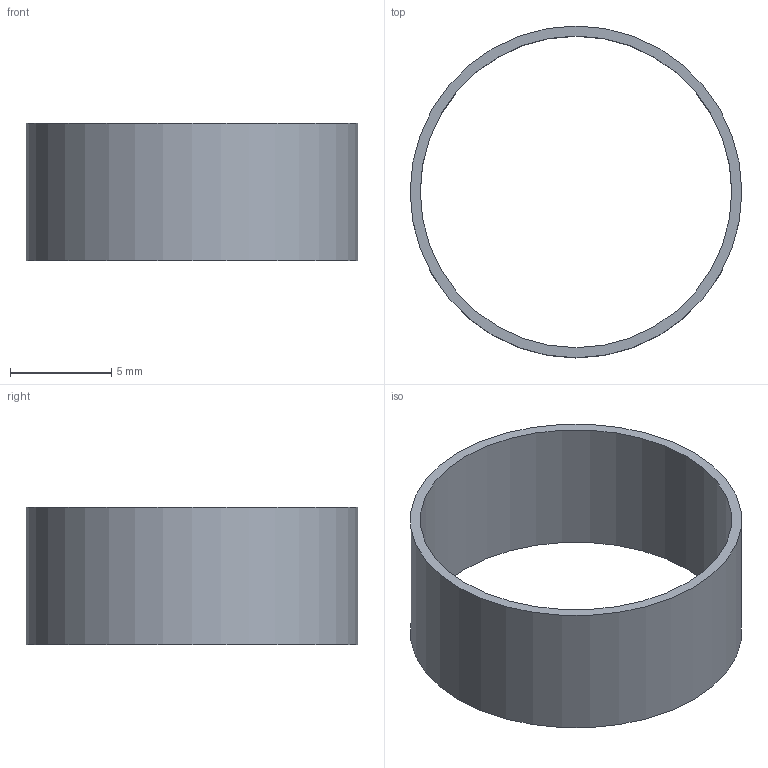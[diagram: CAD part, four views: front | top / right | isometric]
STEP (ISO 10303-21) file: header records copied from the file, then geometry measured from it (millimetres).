
FILE_DESCRIPTION(('Open CASCADE Model'),'2;1');
FILE_NAME('Open CASCADE Shape Model','2026-10-24T17:46:06',('Author'),( 'Open CASCADE'),'Open CASCADE STEP processor 8.0','Open CASCADE 8.0' ,'Unknown');
FILE_SCHEMA(('AUTOMOTIVE_DESIGN { 1 0 10303 214 1 1 1 1 }'));
Length unit declared in the file: millimetre
Products named in the file (1): Open CASCADE STEP translator 8.0 2
Bounding box: 16.4 x 16.4 x 6.8 mm (x, y, z)
Volume: 169.8 mm3; surface area: 729.3 mm2
Topology: 1 solids, 1 shells, 4 faces, 6 edges, 4 vertices
Faces by surface type: cylinder 2, plane 2
Full cylindrical faces by diameter (mm): 15.4 x1, 16.4 x1
Entity records: 186 total; most frequent: DIRECTION 32, CARTESIAN_POINT 27, ORIENTED_EDGE 12, PCURVE 12, DEFINITIONAL_REPRESENTATION 12, LINE 10, VECTOR 10, AXIS2_PLACEMENT_3D 9
